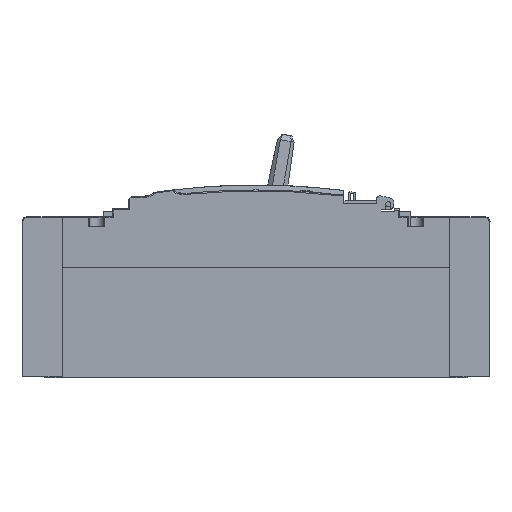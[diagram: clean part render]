
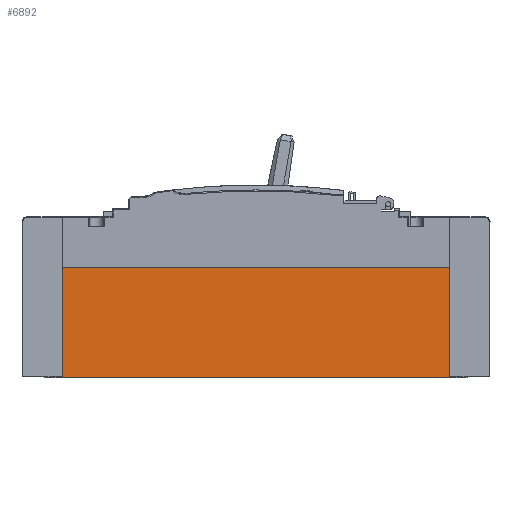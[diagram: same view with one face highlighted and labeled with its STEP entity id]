
A CAD part, left-side view. The second image highlights one B-rep face of the part: STEP entity #6892.
In plain terms, the highlighted planar face has unit normal (-1, 0, 0).
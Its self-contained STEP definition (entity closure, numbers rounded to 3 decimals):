
#159=DIRECTION('',(0.,1.,0.));
#160=VECTOR('',#159,235.8);
#161=CARTESIAN_POINT('',(-75.,-117.9,67.));
#162=LINE('',#161,#160);
#747=DIRECTION('',(0.,-1.,0.));
#748=VECTOR('',#747,235.8);
#749=CARTESIAN_POINT('',(-75.,117.9,0.));
#750=LINE('',#749,#748);
#1007=DIRECTION('',(0.,0.,-1.));
#1008=VECTOR('',#1007,67.);
#1009=CARTESIAN_POINT('',(-75.,-117.9,67.));
#1010=LINE('',#1009,#1008);
#1015=DIRECTION('',(0.,0.,-1.));
#1016=VECTOR('',#1015,67.);
#1017=CARTESIAN_POINT('',(-75.,117.9,67.));
#1018=LINE('',#1017,#1016);
#4573=CARTESIAN_POINT('',(-75.,-117.9,67.));
#4574=VERTEX_POINT('',#4573);
#4575=CARTESIAN_POINT('',(-75.,117.9,67.));
#4576=VERTEX_POINT('',#4575);
#4853=CARTESIAN_POINT('',(-75.,117.9,0.));
#4854=CARTESIAN_POINT('',(-75.,-117.9,0.));
#4855=VERTEX_POINT('',#4853);
#4856=VERTEX_POINT('',#4854);
#6879=CARTESIAN_POINT('',(-75.,128.5,0.));
#6880=DIRECTION('',(-1.,0.,0.));
#6881=DIRECTION('',(0.,-1.,0.));
#6882=AXIS2_PLACEMENT_3D('',#6879,#6880,#6881);
#6883=PLANE('',#6882);
#6884=ORIENTED_EDGE('',*,*,#6726,.F.);
#6886=ORIENTED_EDGE('',*,*,#6885,.F.);
#6887=ORIENTED_EDGE('',*,*,#6000,.F.);
#6889=ORIENTED_EDGE('',*,*,#6888,.T.);
#6890=EDGE_LOOP('',(#6884,#6886,#6887,#6889));
#6891=FACE_OUTER_BOUND('',#6890,.F.);
#6892=ADVANCED_FACE('',(#6891),#6883,.T.);
#6000=EDGE_CURVE('',#4574,#4576,#162,.T.);
#6726=EDGE_CURVE('',#4855,#4856,#750,.T.);
#6885=EDGE_CURVE('',#4576,#4855,#1018,.T.);
#6888=EDGE_CURVE('',#4574,#4856,#1010,.T.);
